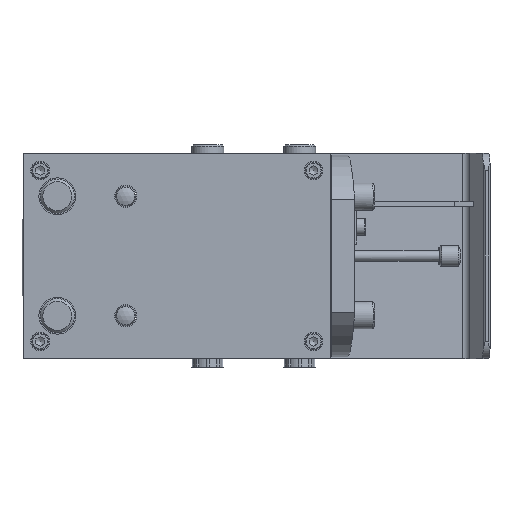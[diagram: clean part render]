
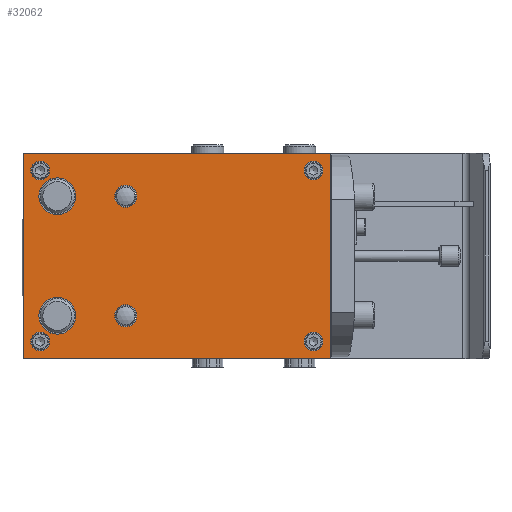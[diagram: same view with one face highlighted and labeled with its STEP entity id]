
A CAD part, front view. The second image highlights one B-rep face of the part: STEP entity #32062.
In plain terms, the highlighted planar face has unit normal (0, -1, 0).
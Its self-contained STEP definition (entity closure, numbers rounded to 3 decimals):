
#3103=LINE('',#50914,#5705);
#3106=LINE('',#50960,#5708);
#3108=LINE('',#50965,#5710);
#3110=LINE('',#50968,#5712);
#5705=VECTOR('',#38771,180.);
#5708=VECTOR('',#38830,120.);
#5710=VECTOR('',#38836,120.);
#5712=VECTOR('',#38840,180.);
#7245=PLANE('',#33957);
#7819=FACE_BOUND('',#11475,.T.);
#7820=FACE_BOUND('',#11476,.T.);
#7821=FACE_BOUND('',#11477,.T.);
#7822=FACE_BOUND('',#11478,.T.);
#7823=FACE_BOUND('',#11479,.T.);
#7824=FACE_BOUND('',#11480,.T.);
#7825=FACE_BOUND('',#11481,.T.);
#7826=FACE_BOUND('',#11482,.T.);
#9488=FACE_OUTER_BOUND('',#11474,.T.);
#11474=EDGE_LOOP('',(#25729,#25730,#25731,#25732));
#11475=EDGE_LOOP('',(#25733));
#11476=EDGE_LOOP('',(#25734));
#11477=EDGE_LOOP('',(#25735));
#11478=EDGE_LOOP('',(#25736));
#11479=EDGE_LOOP('',(#25737));
#11480=EDGE_LOOP('',(#25738));
#11481=EDGE_LOOP('',(#25739));
#11482=EDGE_LOOP('',(#25740));
#12919=CIRCLE('',#33931,6.5);
#12921=CIRCLE('',#33934,6.5);
#12923=CIRCLE('',#33938,5.5);
#12924=CIRCLE('',#33940,5.5);
#12929=CIRCLE('',#33948,5.5);
#12931=CIRCLE('',#33952,5.5);
#12932=CIRCLE('',#33958,10.75);
#12933=CIRCLE('',#33959,10.75);
#15096=VERTEX_POINT('',#50912);
#15097=VERTEX_POINT('',#50913);
#15099=VERTEX_POINT('',#50923);
#15101=VERTEX_POINT('',#50928);
#15103=VERTEX_POINT('',#50934);
#15104=VERTEX_POINT('',#50937);
#15109=VERTEX_POINT('',#50950);
#15111=VERTEX_POINT('',#50956);
#15112=VERTEX_POINT('',#50959);
#15113=VERTEX_POINT('',#50964);
#15114=VERTEX_POINT('',#50970);
#15115=VERTEX_POINT('',#50972);
#18877=EDGE_CURVE('',#15096,#15097,#3103,.T.);
#18881=EDGE_CURVE('',#15099,#15099,#12919,.T.);
#18883=EDGE_CURVE('',#15101,#15101,#12921,.T.);
#18885=EDGE_CURVE('',#15103,#15103,#12923,.T.);
#18886=EDGE_CURVE('',#15104,#15104,#12924,.T.);
#18891=EDGE_CURVE('',#15109,#15109,#12929,.T.);
#18893=EDGE_CURVE('',#15111,#15111,#12931,.T.);
#18894=EDGE_CURVE('',#15112,#15096,#3106,.T.);
#18896=EDGE_CURVE('',#15097,#15113,#3108,.T.);
#18898=EDGE_CURVE('',#15113,#15112,#3110,.T.);
#18899=EDGE_CURVE('',#15114,#15114,#12932,.T.);
#18900=EDGE_CURVE('',#15115,#15115,#12933,.T.);
#25729=ORIENTED_EDGE('',*,*,#18894,.F.);
#25730=ORIENTED_EDGE('',*,*,#18898,.F.);
#25731=ORIENTED_EDGE('',*,*,#18896,.F.);
#25732=ORIENTED_EDGE('',*,*,#18877,.F.);
#25733=ORIENTED_EDGE('',*,*,#18881,.T.);
#25734=ORIENTED_EDGE('',*,*,#18883,.T.);
#25735=ORIENTED_EDGE('',*,*,#18885,.T.);
#25736=ORIENTED_EDGE('',*,*,#18886,.T.);
#25737=ORIENTED_EDGE('',*,*,#18891,.T.);
#25738=ORIENTED_EDGE('',*,*,#18893,.T.);
#25739=ORIENTED_EDGE('',*,*,#18899,.T.);
#25740=ORIENTED_EDGE('',*,*,#18900,.T.);
#32062=ADVANCED_FACE('',(#9488,#7819,#7820,#7821,#7822,#7823,#7824,#7825,
#7826),#7245,.T.);
#33931=AXIS2_PLACEMENT_3D('',#50924,#38784,#38785);
#33934=AXIS2_PLACEMENT_3D('',#50929,#38790,#38791);
#33938=AXIS2_PLACEMENT_3D('',#50935,#38798,#38799);
#33940=AXIS2_PLACEMENT_3D('',#50938,#38802,#38803);
#33948=AXIS2_PLACEMENT_3D('',#50951,#38818,#38819);
#33952=AXIS2_PLACEMENT_3D('',#50957,#38826,#38827);
#33957=AXIS2_PLACEMENT_3D('',#50969,#38841,#38842);
#33958=AXIS2_PLACEMENT_3D('',#50971,#38843,#38844);
#33959=AXIS2_PLACEMENT_3D('',#50973,#38845,#38846);
#38771=DIRECTION('',(1.,0.,0.));
#38784=DIRECTION('center_axis',(0.,1.,0.));
#38785=DIRECTION('ref_axis',(1.,0.,0.));
#38790=DIRECTION('center_axis',(0.,1.,0.));
#38791=DIRECTION('ref_axis',(1.,0.,0.));
#38798=DIRECTION('center_axis',(0.,1.,0.));
#38799=DIRECTION('ref_axis',(1.,0.,0.));
#38802=DIRECTION('center_axis',(0.,1.,0.));
#38803=DIRECTION('ref_axis',(1.,0.,0.));
#38818=DIRECTION('center_axis',(0.,1.,0.));
#38819=DIRECTION('ref_axis',(1.,0.,0.));
#38826=DIRECTION('center_axis',(0.,1.,0.));
#38827=DIRECTION('ref_axis',(1.,0.,0.));
#38830=DIRECTION('',(0.,0.,1.));
#38836=DIRECTION('',(0.,0.,-1.));
#38840=DIRECTION('',(-1.,0.,0.));
#38841=DIRECTION('center_axis',(0.,-1.,0.));
#38842=DIRECTION('ref_axis',(1.,0.,0.));
#38843=DIRECTION('center_axis',(0.,1.,0.));
#38844=DIRECTION('ref_axis',(1.,0.,0.));
#38845=DIRECTION('center_axis',(0.,1.,0.));
#38846=DIRECTION('ref_axis',(1.,0.,0.));
#50912=CARTESIAN_POINT('',(0.,-61.4,60.));
#50913=CARTESIAN_POINT('',(180.,-61.4,60.));
#50914=CARTESIAN_POINT('',(180.,-61.4,60.));
#50923=CARTESIAN_POINT('',(66.5,-61.4,-35.));
#50924=CARTESIAN_POINT('Origin',(60.,-61.4,-35.));
#50928=CARTESIAN_POINT('',(66.5,-61.4,35.));
#50929=CARTESIAN_POINT('Origin',(60.,-61.4,35.));
#50934=CARTESIAN_POINT('',(175.5,-61.4,-50.));
#50935=CARTESIAN_POINT('Origin',(170.,-61.4,-50.));
#50937=CARTESIAN_POINT('',(175.5,-61.4,50.));
#50938=CARTESIAN_POINT('Origin',(170.,-61.4,50.));
#50950=CARTESIAN_POINT('',(15.5,-61.4,-50.));
#50951=CARTESIAN_POINT('Origin',(10.,-61.4,-50.));
#50956=CARTESIAN_POINT('',(15.5,-61.4,50.));
#50957=CARTESIAN_POINT('Origin',(10.,-61.4,50.));
#50959=CARTESIAN_POINT('',(0.,-61.4,-60.));
#50960=CARTESIAN_POINT('',(0.,-61.4,60.));
#50964=CARTESIAN_POINT('',(180.,-61.4,-60.));
#50965=CARTESIAN_POINT('',(180.,-61.4,-60.));
#50968=CARTESIAN_POINT('',(0.,-61.4,-60.));
#50969=CARTESIAN_POINT('Origin',(90.,-61.4,0.));
#50970=CARTESIAN_POINT('',(30.75,-61.4,-35.));
#50971=CARTESIAN_POINT('Origin',(20.,-61.4,-35.));
#50972=CARTESIAN_POINT('',(30.75,-61.4,35.));
#50973=CARTESIAN_POINT('Origin',(20.,-61.4,35.));
